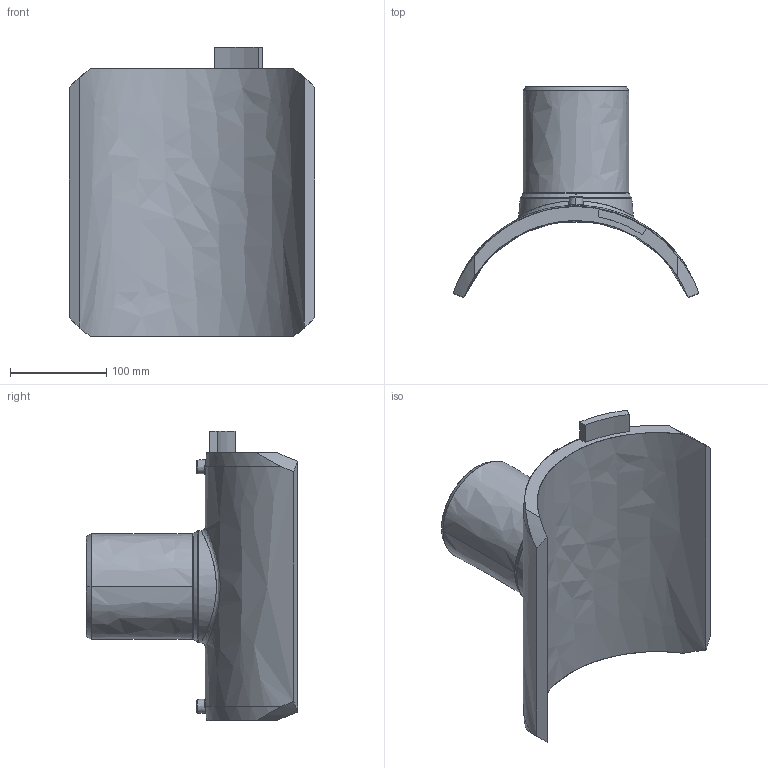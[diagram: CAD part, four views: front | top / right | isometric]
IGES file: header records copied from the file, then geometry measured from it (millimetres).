
Start section:  PTC IGES file: sa-uni_d250_110_01.igs
Global section: file name: sa-uni_d250_110_01.igs; native system: Pro/ENGINEER by Parametric Technology Corporation; preprocessor: 2011490; author: MikulicP; organization: Unknown; date: 20170202.112025; units: millimetre
Bounding box: 255.71 x 219.99 x 301 mm (x, y, z)
Surface area: 281496.9 mm2 (no closed solid volume)
Topology: 0 solids, 0 shells, 204 faces, 1008 edges, 1008 vertices
Faces by surface type: bspline 204
